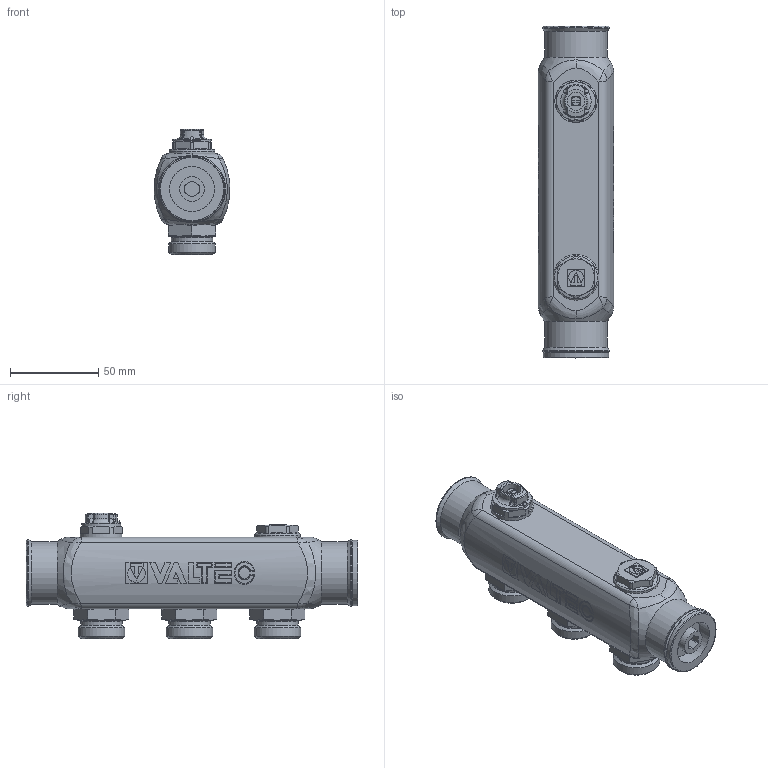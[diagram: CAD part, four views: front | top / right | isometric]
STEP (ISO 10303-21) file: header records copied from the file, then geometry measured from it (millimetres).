
FILE_DESCRIPTION(('STEP AP203'), '1');
FILE_NAME('覆.622621.030.000 捘 - VTc.505.SS.060503', '2024-08-28T13:29:49', ('Boss'), (''), 'C3D Converter', 'C3D Toolkit', '');
FILE_SCHEMA(('CONFIG_CONTROL_DESIGN'));
Length unit declared in the file: millimetre
Products named in the file (1): ВР.622621.030.000 СБ
Bounding box: 43 x 188.5 x 71.1 mm (x, y, z)
Volume: 250697.4 mm3; surface area: 70929.3 mm2
Topology: 1 solids, 21 shells, 650 faces, 1552 edges, 966 vertices
Faces by surface type: plane 287, cylinder 153, bspline 92, cone 73, torus 45
Full cylindrical faces by diameter (mm): 5 x1, 10.2 x1, 12.5 x3, 14 x1, 18.1 x3, 22 x1, 23.5 x3, 24 x1, 25.5 x1, 26 x1, 26.441 x3, 30.292 x1, 35.5 x2, 37 x1
Entity records: 46760 total; most frequent: CARTESIAN_POINT 33158, ORIENTED_EDGE 2934, DIRECTION 2447, EDGE_CURVE 1467, VERTEX_POINT 975, AXIS2_PLACEMENT_3D 952, EDGE_LOOP 748, FACE_BOUND 671
